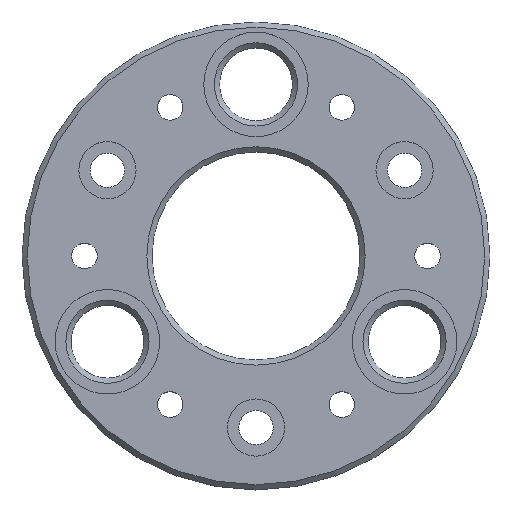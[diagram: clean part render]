
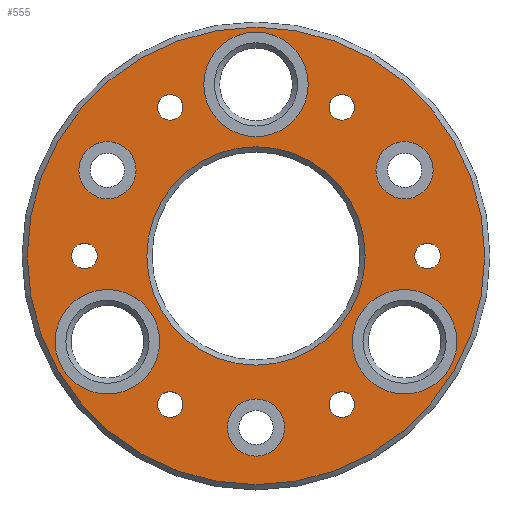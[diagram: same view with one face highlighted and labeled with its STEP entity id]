
A CAD part, top view. The second image highlights one B-rep face of the part: STEP entity #555.
In plain terms, the highlighted planar face has unit normal (0, 0, 1).
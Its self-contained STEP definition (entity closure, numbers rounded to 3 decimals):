
#15=FACE_BOUND('',#101,.T.);
#16=FACE_BOUND('',#102,.T.);
#17=FACE_BOUND('',#103,.T.);
#18=FACE_BOUND('',#104,.T.);
#19=FACE_BOUND('',#105,.T.);
#20=FACE_BOUND('',#106,.T.);
#21=FACE_BOUND('',#107,.T.);
#22=FACE_BOUND('',#108,.T.);
#23=FACE_BOUND('',#109,.T.);
#24=FACE_BOUND('',#110,.T.);
#25=FACE_BOUND('',#111,.T.);
#26=FACE_BOUND('',#112,.T.);
#27=FACE_BOUND('',#113,.T.);
#47=PLANE('',#625);
#67=FACE_OUTER_BOUND('',#100,.T.);
#100=EDGE_LOOP('',(#408));
#101=EDGE_LOOP('',(#409));
#102=EDGE_LOOP('',(#410));
#103=EDGE_LOOP('',(#411));
#104=EDGE_LOOP('',(#412));
#105=EDGE_LOOP('',(#413));
#106=EDGE_LOOP('',(#414));
#107=EDGE_LOOP('',(#415));
#108=EDGE_LOOP('',(#416));
#109=EDGE_LOOP('',(#417));
#110=EDGE_LOOP('',(#418));
#111=EDGE_LOOP('',(#419));
#112=EDGE_LOOP('',(#420));
#113=EDGE_LOOP('',(#421));
#208=CIRCLE('',#605,2.459);
#210=CIRCLE('',#608,2.459);
#212=CIRCLE('',#611,2.459);
#214=CIRCLE('',#614,2.459);
#216=CIRCLE('',#617,2.459);
#218=CIRCLE('',#620,2.459);
#220=CIRCLE('',#623,21.);
#222=CIRCLE('',#626,44.);
#223=CIRCLE('',#627,10.05);
#224=CIRCLE('',#628,5.5);
#225=CIRCLE('',#629,10.05);
#226=CIRCLE('',#630,5.5);
#227=CIRCLE('',#631,5.5);
#228=CIRCLE('',#632,10.05);
#257=VERTEX_POINT('',#879);
#259=VERTEX_POINT('',#885);
#261=VERTEX_POINT('',#891);
#263=VERTEX_POINT('',#897);
#265=VERTEX_POINT('',#903);
#267=VERTEX_POINT('',#909);
#269=VERTEX_POINT('',#915);
#271=VERTEX_POINT('',#921);
#272=VERTEX_POINT('',#923);
#273=VERTEX_POINT('',#925);
#274=VERTEX_POINT('',#927);
#275=VERTEX_POINT('',#929);
#276=VERTEX_POINT('',#931);
#277=VERTEX_POINT('',#933);
#306=EDGE_CURVE('',#257,#257,#208,.T.);
#309=EDGE_CURVE('',#259,#259,#210,.T.);
#312=EDGE_CURVE('',#261,#261,#212,.T.);
#315=EDGE_CURVE('',#263,#263,#214,.T.);
#318=EDGE_CURVE('',#265,#265,#216,.T.);
#321=EDGE_CURVE('',#267,#267,#218,.T.);
#324=EDGE_CURVE('',#269,#269,#220,.T.);
#327=EDGE_CURVE('',#271,#271,#222,.T.);
#328=EDGE_CURVE('',#272,#272,#223,.T.);
#329=EDGE_CURVE('',#273,#273,#224,.T.);
#330=EDGE_CURVE('',#274,#274,#225,.T.);
#331=EDGE_CURVE('',#275,#275,#226,.T.);
#332=EDGE_CURVE('',#276,#276,#227,.T.);
#333=EDGE_CURVE('',#277,#277,#228,.T.);
#408=ORIENTED_EDGE('',*,*,#327,.F.);
#409=ORIENTED_EDGE('',*,*,#306,.T.);
#410=ORIENTED_EDGE('',*,*,#309,.T.);
#411=ORIENTED_EDGE('',*,*,#312,.T.);
#412=ORIENTED_EDGE('',*,*,#315,.T.);
#413=ORIENTED_EDGE('',*,*,#318,.T.);
#414=ORIENTED_EDGE('',*,*,#321,.T.);
#415=ORIENTED_EDGE('',*,*,#328,.T.);
#416=ORIENTED_EDGE('',*,*,#329,.T.);
#417=ORIENTED_EDGE('',*,*,#330,.T.);
#418=ORIENTED_EDGE('',*,*,#331,.T.);
#419=ORIENTED_EDGE('',*,*,#332,.T.);
#420=ORIENTED_EDGE('',*,*,#333,.T.);
#421=ORIENTED_EDGE('',*,*,#324,.F.);
#555=ADVANCED_FACE('',(#67,#15,#16,#17,#18,#19,#20,#21,#22,#23,#24,#25,
#26,#27),#47,.T.);
#605=AXIS2_PLACEMENT_3D('',#880,#690,#691);
#608=AXIS2_PLACEMENT_3D('',#886,#697,#698);
#611=AXIS2_PLACEMENT_3D('',#892,#704,#705);
#614=AXIS2_PLACEMENT_3D('',#898,#711,#712);
#617=AXIS2_PLACEMENT_3D('',#904,#718,#719);
#620=AXIS2_PLACEMENT_3D('',#910,#725,#726);
#623=AXIS2_PLACEMENT_3D('',#916,#732,#733);
#625=AXIS2_PLACEMENT_3D('',#920,#737,#738);
#626=AXIS2_PLACEMENT_3D('',#922,#739,#740);
#627=AXIS2_PLACEMENT_3D('',#924,#741,#742);
#628=AXIS2_PLACEMENT_3D('',#926,#743,#744);
#629=AXIS2_PLACEMENT_3D('',#928,#745,#746);
#630=AXIS2_PLACEMENT_3D('',#930,#747,#748);
#631=AXIS2_PLACEMENT_3D('',#932,#749,#750);
#632=AXIS2_PLACEMENT_3D('',#934,#751,#752);
#690=DIRECTION('center_axis',(0.,0.,-1.));
#691=DIRECTION('ref_axis',(0.5,-0.866,0.));
#697=DIRECTION('center_axis',(0.,0.,-1.));
#698=DIRECTION('ref_axis',(-0.5,-0.866,0.));
#704=DIRECTION('center_axis',(0.,0.,-1.));
#705=DIRECTION('ref_axis',(-1.,0.,0.));
#711=DIRECTION('center_axis',(0.,0.,-1.));
#712=DIRECTION('ref_axis',(-0.5,0.866,0.));
#718=DIRECTION('center_axis',(0.,0.,-1.));
#719=DIRECTION('ref_axis',(0.5,0.866,0.));
#725=DIRECTION('center_axis',(0.,0.,-1.));
#726=DIRECTION('ref_axis',(1.,0.,0.));
#732=DIRECTION('center_axis',(0.,0.,1.));
#733=DIRECTION('ref_axis',(-1.,0.,0.));
#737=DIRECTION('center_axis',(0.,0.,1.));
#738=DIRECTION('ref_axis',(1.,0.,0.));
#739=DIRECTION('center_axis',(0.,0.,-1.));
#740=DIRECTION('ref_axis',(-1.,0.,0.));
#741=DIRECTION('center_axis',(0.,0.,-1.));
#742=DIRECTION('ref_axis',(0.866,-0.5,0.));
#743=DIRECTION('center_axis',(0.,0.,-1.));
#744=DIRECTION('ref_axis',(-0.5,-0.866,0.));
#745=DIRECTION('center_axis',(0.,0.,-1.));
#746=DIRECTION('ref_axis',(-0.866,-0.5,0.));
#747=DIRECTION('center_axis',(0.,0.,-1.));
#748=DIRECTION('ref_axis',(-0.5,0.866,0.));
#749=DIRECTION('center_axis',(0.,0.,-1.));
#750=DIRECTION('ref_axis',(1.,0.,0.));
#751=DIRECTION('center_axis',(0.,0.,-1.));
#752=DIRECTION('ref_axis',(0.,1.,0.));
#879=CARTESIAN_POINT('',(15.271,-26.45,10.));
#880=CARTESIAN_POINT('Origin',(16.5,-28.579,10.));
#885=CARTESIAN_POINT('',(-15.271,-26.45,10.));
#886=CARTESIAN_POINT('Origin',(-16.5,-28.579,10.));
#891=CARTESIAN_POINT('',(-30.542,0.,10.));
#892=CARTESIAN_POINT('Origin',(-33.,0.,10.));
#897=CARTESIAN_POINT('',(-15.271,26.45,10.));
#898=CARTESIAN_POINT('Origin',(-16.5,28.579,10.));
#903=CARTESIAN_POINT('',(15.271,26.45,10.));
#904=CARTESIAN_POINT('Origin',(16.5,28.579,10.));
#909=CARTESIAN_POINT('',(30.542,0.,10.));
#910=CARTESIAN_POINT('Origin',(33.,0.,10.));
#915=CARTESIAN_POINT('',(21.,0.,10.));
#916=CARTESIAN_POINT('Origin',(0.,0.,10.));
#920=CARTESIAN_POINT('Origin',(0.,0.,10.));
#921=CARTESIAN_POINT('',(44.,0.,10.));
#922=CARTESIAN_POINT('Origin',(0.,0.,10.));
#923=CARTESIAN_POINT('',(19.875,-11.475,10.));
#924=CARTESIAN_POINT('Origin',(28.579,-16.5,10.));
#925=CARTESIAN_POINT('',(-25.829,21.263,10.));
#926=CARTESIAN_POINT('Origin',(-28.579,16.5,10.));
#927=CARTESIAN_POINT('',(-19.875,-11.475,10.));
#928=CARTESIAN_POINT('Origin',(-28.579,-16.5,10.));
#929=CARTESIAN_POINT('',(31.329,11.737,10.));
#930=CARTESIAN_POINT('Origin',(28.579,16.5,10.));
#931=CARTESIAN_POINT('',(-5.5,-33.,10.));
#932=CARTESIAN_POINT('Origin',(0.,-33.,10.));
#933=CARTESIAN_POINT('',(0.,22.95,10.));
#934=CARTESIAN_POINT('Origin',(0.,33.,10.));
